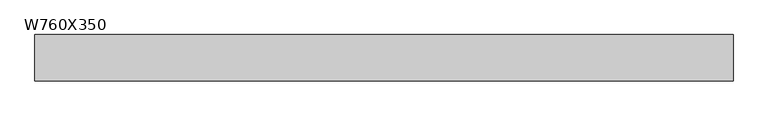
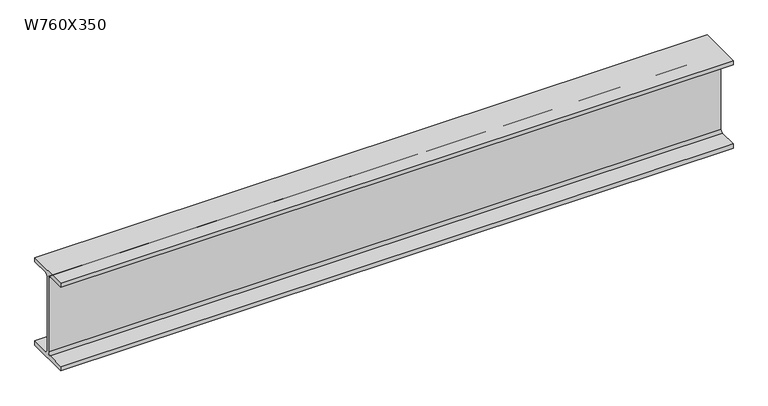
"""IFC4 building model written with IfcOpenShell, lengths in millimetres: beam geometry, M_W-Wide Flange : W760X350."""

from ifc_helpers import new_model, si_unit, point, frame, frame_2d, origin, place, context, project, spatial, polyline, circle_curve, trimmed, segment, composite_curve, outline, extrude, source, transform, mapped, element, save


def w760x350_05c1157e(model_context):
    return source(origin(), model_context, "Body", "SweptSolid", [
        extrude(outline(composite_curve([segment(polyline([(192.0, -359.4), (192.0, -397.5), (-192.0, -397.5), (-192.0, -359.4), (-32.75, -359.4)]), True, "CONTINUOUS"), segment(trimmed(circle_curve(frame_2d((-32.75, -337.2)), 22.2), [point((-32.75, -359.4))], [point((-10.55, -337.2))], True, "CARTESIAN"), True, "CONTINUOUS"), segment(polyline([(-10.55, -337.2), (-10.55, 337.2)]), True, "CONTINUOUS"), segment(trimmed(circle_curve(frame_2d((-32.75, 337.2)), 22.2), [point((-10.55, 337.2))], [point((-32.75, 359.4))], True, "CARTESIAN"), True, "CONTINUOUS"), segment(polyline([(-32.75, 359.4), (-192.0, 359.4), (-192.0, 397.5), (192.0, 397.5), (192.0, 359.4), (32.75, 359.4)]), True, "CONTINUOUS"), segment(trimmed(circle_curve(frame_2d((32.75, 337.2)), 22.2), [point((32.75, 359.4))], [point((10.55, 337.2))], True, "CARTESIAN"), True, "CONTINUOUS"), segment(polyline([(10.55, 337.2), (10.55, -337.2)]), True, "CONTINUOUS"), segment(trimmed(circle_curve(frame_2d((32.75, -337.2)), 22.2), [point((10.55, -337.2))], [point((32.75, -359.4))], True, "CARTESIAN"), True, "CONTINUOUS"), segment(polyline([(32.75, -359.4), (192.0, -359.4)]), True, "CONTINUOUS")], self_intersect=False)), frame((-2889.3, 0.0, 0.0), z_axis=(1.0, 0.0, 0.0), x_axis=(0.0, 1.0, 0.0)), (0.0, 0.0, 1.0), 5778.6),
    ])


if __name__ == "__main__":
    model = new_model("IFC4")
    model_context = context("Model", 3, world=origin())
    ifc_project = project(units=[si_unit("LENGTHUNIT", "METRE", prefix="MILLI")], contexts=[model_context])
    site = spatial("IfcSite", under=ifc_project)
    building = spatial("IfcBuilding", under=site)
    placement = place(None, origin())
    w760x350_shape = w760x350_05c1157e(model_context)
    element("IfcBeam", 1, ObjectType="M_W-Wide Flange : W760X350", at=placement, inside=building, context=model_context, shape_type="MappedRepresentation", body=[
        mapped(w760x350_shape, transform((0.0, 0.0, 0.0), x_axis=(1.0, 0.0, 0.0), y_axis=(0.0, 1.0, 0.0), z_axis=(0.0, 0.0, 1.0))),
    ])
    save(model, "model.ifc")
